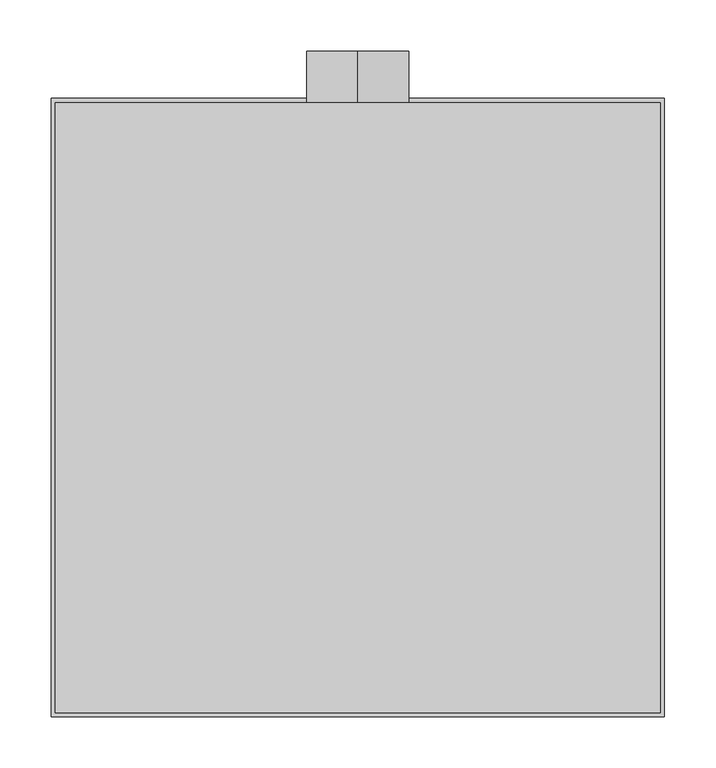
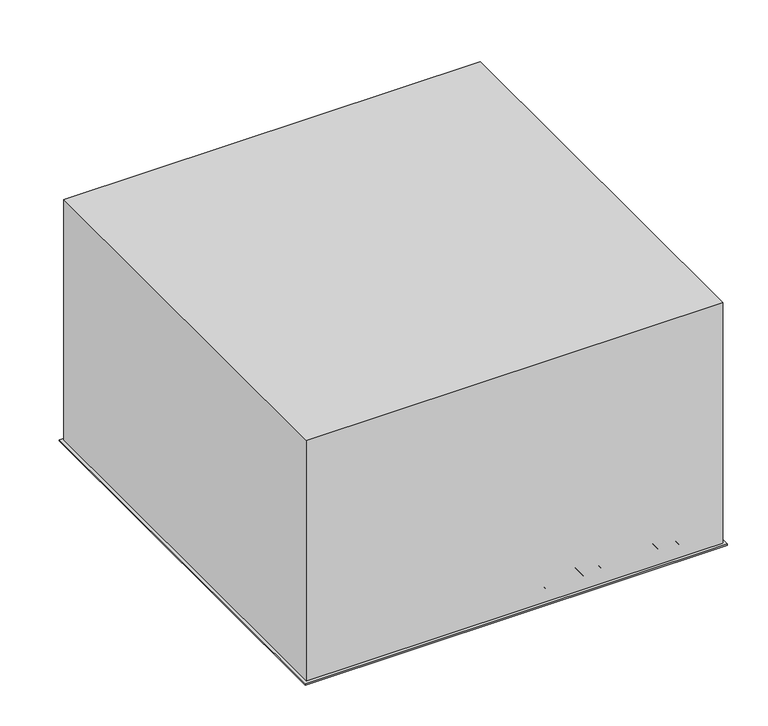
"""IFC4 building model written with IfcOpenShell, lengths in millimetres: air terminal geometry, EOL - plafonnier : EOL-P2-100-600x600."""

from ifc_helpers import new_model, si_unit, point, frame, frame_2d, origin, place, context, project, spatial, polyline, circle_curve, trimmed, segment, composite_curve, outline, extrude, source, transform, mapped, element, save
from ifc_brep_helpers import plane_surface, revolved_surface, advanced_brep


def air_terminal_18f7a0d8(model_context):
    return source(origin(), model_context, "Body", "SolidModel", [
        extrude(outline(composite_curve([segment(polyline([(1.0, 69.6874144), (2.0025269, 69.6874144)]), True, "CONTINUOUS"), segment(trimmed(circle_curve(frame_2d((31.0266548, 71.7874144)), 29.1), [point((2.0025269, 69.6874144))], [point((26.77286, 43.0))], True, "CARTESIAN"), True, "CONTINUOUS"), segment(polyline([(26.77286, 43.0), (35.0, 43.0), (35.0, 42.0), (26.7, 42.0)]), True, "CONTINUOUS"), segment(trimmed(circle_curve(frame_2d((31.0266548, 71.7874144)), 30.1), [point((26.7, 42.0))], [point((1.0, 69.6874144))], False, "CARTESIAN"), True, "CONTINUOUS")], self_intersect=False)), frame((0.0, 6.1874144, 0.0), z_axis=(0.0, 1.0, 0.0), x_axis=(0.0, 0.0, 1.0)), (0.0, 0.0, 1.0), 572.6251712),
        extrude(outline(composite_curve([segment(polyline([(1.0, 96.6874144), (2.0025269, 96.6874144)]), True, "CONTINUOUS"), segment(trimmed(circle_curve(frame_2d((31.0266548, 98.7874144)), 29.1), [point((2.0025269, 96.6874144))], [point((26.77286, 70.0))], True, "CARTESIAN"), True, "CONTINUOUS"), segment(polyline([(26.77286, 70.0), (35.0, 70.0), (35.0, 69.0), (26.7, 69.0)]), True, "CONTINUOUS"), segment(trimmed(circle_curve(frame_2d((31.0266548, 98.7874144)), 30.1), [point((26.7, 69.0))], [point((1.0, 96.6874144))], False, "CARTESIAN"), True, "CONTINUOUS")], self_intersect=False)), frame((0.0, 6.1874144, 0.0), z_axis=(0.0, 1.0, 0.0), x_axis=(0.0, 0.0, 1.0)), (0.0, 0.0, 1.0), 572.6251712),
        extrude(outline(composite_curve([segment(polyline([(1.0, 123.6874144), (2.0025269, 123.6874144)]), True, "CONTINUOUS"), segment(trimmed(circle_curve(frame_2d((31.0266548, 125.7874144)), 29.1), [point((2.0025269, 123.6874144))], [point((26.77286, 97.0))], True, "CARTESIAN"), True, "CONTINUOUS"), segment(polyline([(26.77286, 97.0), (35.0, 97.0), (35.0, 96.0), (26.7, 96.0)]), True, "CONTINUOUS"), segment(trimmed(circle_curve(frame_2d((31.0266548, 125.7874144)), 30.1), [point((26.7, 96.0))], [point((1.0, 123.6874144))], False, "CARTESIAN"), True, "CONTINUOUS")], self_intersect=False)), frame((0.0, 6.1874144, 0.0), z_axis=(0.0, 1.0, 0.0), x_axis=(0.0, 0.0, 1.0)), (0.0, 0.0, 1.0), 572.6251712),
        extrude(outline(composite_curve([segment(polyline([(1.0, 150.6874144), (2.0025269, 150.6874144)]), True, "CONTINUOUS"), segment(trimmed(circle_curve(frame_2d((31.0266548, 152.7874144)), 29.1), [point((2.0025269, 150.6874144))], [point((26.77286, 124.0))], True, "CARTESIAN"), True, "CONTINUOUS"), segment(polyline([(26.77286, 124.0), (35.0, 124.0), (35.0, 123.0), (26.7, 123.0)]), True, "CONTINUOUS"), segment(trimmed(circle_curve(frame_2d((31.0266548, 152.7874144)), 30.1), [point((26.7, 123.0))], [point((1.0, 150.6874144))], False, "CARTESIAN"), True, "CONTINUOUS")], self_intersect=False)), frame((0.0, 6.1874144, 0.0), z_axis=(0.0, 1.0, 0.0), x_axis=(0.0, 0.0, 1.0)), (0.0, 0.0, 1.0), 572.6251712),
        extrude(outline(composite_curve([segment(polyline([(1.0, 177.6874144), (2.0025269, 177.6874144)]), True, "CONTINUOUS"), segment(trimmed(circle_curve(frame_2d((31.0266548, 179.7874144)), 29.1), [point((2.0025269, 177.6874144))], [point((26.77286, 151.0))], True, "CARTESIAN"), True, "CONTINUOUS"), segment(polyline([(26.77286, 151.0), (35.0, 151.0), (35.0, 150.0), (26.7, 150.0)]), True, "CONTINUOUS"), segment(trimmed(circle_curve(frame_2d((31.0266548, 179.7874144)), 30.1), [point((26.7, 150.0))], [point((1.0, 177.6874144))], False, "CARTESIAN"), True, "CONTINUOUS")], self_intersect=False)), frame((0.0, 6.1874144, 0.0), z_axis=(0.0, 1.0, 0.0), x_axis=(0.0, 0.0, 1.0)), (0.0, 0.0, 1.0), 572.6251712),
        extrude(outline(composite_curve([segment(polyline([(1.0, 204.6874144), (2.0025269, 204.6874144)]), True, "CONTINUOUS"), segment(trimmed(circle_curve(frame_2d((31.0266548, 206.7874144)), 29.1), [point((2.0025269, 204.6874144))], [point((26.77286, 178.0))], True, "CARTESIAN"), True, "CONTINUOUS"), segment(polyline([(26.77286, 178.0), (35.0, 178.0), (35.0, 177.0), (26.7, 177.0)]), True, "CONTINUOUS"), segment(trimmed(circle_curve(frame_2d((31.0266548, 206.7874144)), 30.1), [point((26.7, 177.0))], [point((1.0, 204.6874144))], False, "CARTESIAN"), True, "CONTINUOUS")], self_intersect=False)), frame((0.0, 6.1874144, 0.0), z_axis=(0.0, 1.0, 0.0), x_axis=(0.0, 0.0, 1.0)), (0.0, 0.0, 1.0), 572.6251712),
        extrude(outline(composite_curve([segment(polyline([(1.0, 231.6874144), (2.0025269, 231.6874144)]), True, "CONTINUOUS"), segment(trimmed(circle_curve(frame_2d((31.0266548, 233.7874144)), 29.1), [point((2.0025269, 231.6874144))], [point((26.77286, 205.0))], True, "CARTESIAN"), True, "CONTINUOUS"), segment(polyline([(26.77286, 205.0), (35.0, 205.0), (35.0, 204.0), (26.7, 204.0)]), True, "CONTINUOUS"), segment(trimmed(circle_curve(frame_2d((31.0266548, 233.7874144)), 30.1), [point((26.7, 204.0))], [point((1.0, 231.6874144))], False, "CARTESIAN"), True, "CONTINUOUS")], self_intersect=False)), frame((0.0, 6.1874144, 0.0), z_axis=(0.0, 1.0, 0.0), x_axis=(0.0, 0.0, 1.0)), (0.0, 0.0, 1.0), 572.6251712),
        extrude(outline(composite_curve([segment(polyline([(1.0, 258.6874144), (2.0025269, 258.6874144)]), True, "CONTINUOUS"), segment(trimmed(circle_curve(frame_2d((31.0266548, 260.7874144)), 29.1), [point((2.0025269, 258.6874144))], [point((26.77286, 232.0))], True, "CARTESIAN"), True, "CONTINUOUS"), segment(polyline([(26.77286, 232.0), (35.0, 232.0), (35.0, 231.0), (26.7, 231.0)]), True, "CONTINUOUS"), segment(trimmed(circle_curve(frame_2d((31.0266548, 260.7874144)), 30.1), [point((26.7, 231.0))], [point((1.0, 258.6874144))], False, "CARTESIAN"), True, "CONTINUOUS")], self_intersect=False)), frame((0.0, 6.1874144, 0.0), z_axis=(0.0, 1.0, 0.0), x_axis=(0.0, 0.0, 1.0)), (0.0, 0.0, 1.0), 572.6251712),
        extrude(outline(composite_curve([segment(polyline([(1.0, 285.6874144), (2.0025269, 285.6874144)]), True, "CONTINUOUS"), segment(trimmed(circle_curve(frame_2d((31.0266548, 287.7874144)), 29.1), [point((2.0025269, 285.6874144))], [point((26.77286, 259.0))], True, "CARTESIAN"), True, "CONTINUOUS"), segment(polyline([(26.77286, 259.0), (35.0, 259.0), (35.0, 258.0), (26.7, 258.0)]), True, "CONTINUOUS"), segment(trimmed(circle_curve(frame_2d((31.0266548, 287.7874144)), 30.1), [point((26.7, 258.0))], [point((1.0, 285.6874144))], False, "CARTESIAN"), True, "CONTINUOUS")], self_intersect=False)), frame((0.0, 6.1874144, 0.0), z_axis=(0.0, 1.0, 0.0), x_axis=(0.0, 0.0, 1.0)), (0.0, 0.0, 1.0), 572.6251712),
        extrude(outline(composite_curve([segment(trimmed(circle_curve(frame_2d((31.0266548, -71.7874144)), 30.1), [point((1.0, -69.6874144))], [point((26.7, -42.0))], False, "CARTESIAN"), True, "CONTINUOUS"), segment(polyline([(26.7, -42.0), (35.0, -42.0), (35.0, -43.0), (26.77286, -43.0)]), True, "CONTINUOUS"), segment(trimmed(circle_curve(frame_2d((31.0266548, -71.7874144)), 29.1), [point((26.77286, -43.0))], [point((2.0025269, -69.6874144))], True, "CARTESIAN"), True, "CONTINUOUS"), segment(polyline([(2.0025269, -69.6874144), (1.0, -69.6874144)]), True, "CONTINUOUS")], self_intersect=False)), frame((0.0, 6.1874144, 0.0), z_axis=(0.0, 1.0, 0.0), x_axis=(0.0, 0.0, 1.0)), (0.0, 0.0, 1.0), 572.6251712),
        extrude(outline(composite_curve([segment(trimmed(circle_curve(frame_2d((31.0266548, -98.7874144)), 30.1), [point((1.0, -96.6874144))], [point((26.7, -69.0))], False, "CARTESIAN"), True, "CONTINUOUS"), segment(polyline([(26.7, -69.0), (35.0, -69.0), (35.0, -70.0), (26.77286, -70.0)]), True, "CONTINUOUS"), segment(trimmed(circle_curve(frame_2d((31.0266548, -98.7874144)), 29.1), [point((26.77286, -70.0))], [point((2.0025269, -96.6874144))], True, "CARTESIAN"), True, "CONTINUOUS"), segment(polyline([(2.0025269, -96.6874144), (1.0, -96.6874144)]), True, "CONTINUOUS")], self_intersect=False)), frame((0.0, 6.1874144, 0.0), z_axis=(0.0, 1.0, 0.0), x_axis=(0.0, 0.0, 1.0)), (0.0, 0.0, 1.0), 572.6251712),
        extrude(outline(composite_curve([segment(trimmed(circle_curve(frame_2d((31.0266548, -125.7874144)), 30.1), [point((1.0, -123.6874144))], [point((26.7, -96.0))], False, "CARTESIAN"), True, "CONTINUOUS"), segment(polyline([(26.7, -96.0), (35.0, -96.0), (35.0, -97.0), (26.77286, -97.0)]), True, "CONTINUOUS"), segment(trimmed(circle_curve(frame_2d((31.0266548, -125.7874144)), 29.1), [point((26.77286, -97.0))], [point((2.0025269, -123.6874144))], True, "CARTESIAN"), True, "CONTINUOUS"), segment(polyline([(2.0025269, -123.6874144), (1.0, -123.6874144)]), True, "CONTINUOUS")], self_intersect=False)), frame((0.0, 6.1874144, 0.0), z_axis=(0.0, 1.0, 0.0), x_axis=(0.0, 0.0, 1.0)), (0.0, 0.0, 1.0), 572.6251712),
        extrude(outline(composite_curve([segment(trimmed(circle_curve(frame_2d((31.0266548, -152.7874144)), 30.1), [point((1.0, -150.6874144))], [point((26.7, -123.0))], False, "CARTESIAN"), True, "CONTINUOUS"), segment(polyline([(26.7, -123.0), (35.0, -123.0), (35.0, -124.0), (26.77286, -124.0)]), True, "CONTINUOUS"), segment(trimmed(circle_curve(frame_2d((31.0266548, -152.7874144)), 29.1), [point((26.77286, -124.0))], [point((2.0025269, -150.6874144))], True, "CARTESIAN"), True, "CONTINUOUS"), segment(polyline([(2.0025269, -150.6874144), (1.0, -150.6874144)]), True, "CONTINUOUS")], self_intersect=False)), frame((0.0, 6.1874144, 0.0), z_axis=(0.0, 1.0, 0.0), x_axis=(0.0, 0.0, 1.0)), (0.0, 0.0, 1.0), 572.6251712),
        extrude(outline(composite_curve([segment(trimmed(circle_curve(frame_2d((31.0266548, -179.7874144)), 30.1), [point((1.0, -177.6874144))], [point((26.7, -150.0))], False, "CARTESIAN"), True, "CONTINUOUS"), segment(polyline([(26.7, -150.0), (35.0, -150.0), (35.0, -151.0), (26.77286, -151.0)]), True, "CONTINUOUS"), segment(trimmed(circle_curve(frame_2d((31.0266548, -179.7874144)), 29.1), [point((26.77286, -151.0))], [point((2.0025269, -177.6874144))], True, "CARTESIAN"), True, "CONTINUOUS"), segment(polyline([(2.0025269, -177.6874144), (1.0, -177.6874144)]), True, "CONTINUOUS")], self_intersect=False)), frame((0.0, 6.1874144, 0.0), z_axis=(0.0, 1.0, 0.0), x_axis=(0.0, 0.0, 1.0)), (0.0, 0.0, 1.0), 572.6251712),
        extrude(outline(composite_curve([segment(trimmed(circle_curve(frame_2d((31.0266548, -206.7874144)), 30.1), [point((1.0, -204.6874144))], [point((26.7, -177.0))], False, "CARTESIAN"), True, "CONTINUOUS"), segment(polyline([(26.7, -177.0), (35.0, -177.0), (35.0, -178.0), (26.77286, -178.0)]), True, "CONTINUOUS"), segment(trimmed(circle_curve(frame_2d((31.0266548, -206.7874144)), 29.1), [point((26.77286, -178.0))], [point((2.0025269, -204.6874144))], True, "CARTESIAN"), True, "CONTINUOUS"), segment(polyline([(2.0025269, -204.6874144), (1.0, -204.6874144)]), True, "CONTINUOUS")], self_intersect=False)), frame((0.0, 6.1874144, 0.0), z_axis=(0.0, 1.0, 0.0), x_axis=(0.0, 0.0, 1.0)), (0.0, 0.0, 1.0), 572.6251712),
        extrude(outline(composite_curve([segment(trimmed(circle_curve(frame_2d((31.0266548, -233.7874144)), 30.1), [point((1.0, -231.6874144))], [point((26.7, -204.0))], False, "CARTESIAN"), True, "CONTINUOUS"), segment(polyline([(26.7, -204.0), (35.0, -204.0), (35.0, -205.0), (26.77286, -205.0)]), True, "CONTINUOUS"), segment(trimmed(circle_curve(frame_2d((31.0266548, -233.7874144)), 29.1), [point((26.77286, -205.0))], [point((2.0025269, -231.6874144))], True, "CARTESIAN"), True, "CONTINUOUS"), segment(polyline([(2.0025269, -231.6874144), (1.0, -231.6874144)]), True, "CONTINUOUS")], self_intersect=False)), frame((0.0, 6.1874144, 0.0), z_axis=(0.0, 1.0, 0.0), x_axis=(0.0, 0.0, 1.0)), (0.0, 0.0, 1.0), 572.6251712),
        extrude(outline(composite_curve([segment(trimmed(circle_curve(frame_2d((31.0266548, -260.7874144)), 30.1), [point((1.0, -258.6874144))], [point((26.7, -231.0))], False, "CARTESIAN"), True, "CONTINUOUS"), segment(polyline([(26.7, -231.0), (35.0, -231.0), (35.0, -232.0), (26.77286, -232.0)]), True, "CONTINUOUS"), segment(trimmed(circle_curve(frame_2d((31.0266548, -260.7874144)), 29.1), [point((26.77286, -232.0))], [point((2.0025269, -258.6874144))], True, "CARTESIAN"), True, "CONTINUOUS"), segment(polyline([(2.0025269, -258.6874144), (1.0, -258.6874144)]), True, "CONTINUOUS")], self_intersect=False)), frame((0.0, 6.1874144, 0.0), z_axis=(0.0, 1.0, 0.0), x_axis=(0.0, 0.0, 1.0)), (0.0, 0.0, 1.0), 572.6251712),
        extrude(outline(polyline([(42.0, 578.8125856), (42.0, 6.1874144), (-42.0, 6.1874144), (-42.0, 578.8125856), (42.0, 578.8125856)])), frame((0.0, 0.0, 1.0), z_axis=(0.0, 0.0, 1.0), x_axis=(1.0, 0.0, 0.0)), (0.0, 0.0, 1.0), 1.0025269),
        extrude(outline(composite_curve([segment(trimmed(circle_curve(frame_2d((31.0266548, -287.7874144)), 30.1), [point((1.0, -285.6874144))], [point((26.7, -258.0))], False, "CARTESIAN"), True, "CONTINUOUS"), segment(polyline([(26.7, -258.0), (35.0, -258.0), (35.0, -259.0), (26.77286, -259.0)]), True, "CONTINUOUS"), segment(trimmed(circle_curve(frame_2d((31.0266548, -287.7874144)), 29.1), [point((26.77286, -259.0))], [point((2.0025269, -285.6874144))], True, "CARTESIAN"), True, "CONTINUOUS"), segment(polyline([(2.0025269, -285.6874144), (1.0, -285.6874144)]), True, "CONTINUOUS")], self_intersect=False)), frame((0.0, 6.1874144, 0.0), z_axis=(0.0, 1.0, 0.0), x_axis=(0.0, 0.0, 1.0)), (0.0, 0.0, 1.0), 572.6251712),
        extrude(outline(polyline([(299.0, 594.0), (299.0, -9.0), (-299.0, -9.0), (-299.0, 594.0), (299.0, 594.0)]), holes=[polyline([(290.0, 585.0), (-290.0, 585.0), (-290.0, 0.0), (290.0, 0.0), (290.0, 585.0)])]), frame((0.0, 0.0, -2.0), z_axis=(0.0, 0.0, 1.0), x_axis=(1.0, 0.0, 0.0)), (0.0, 0.0, 1.0), 2.0),
        extrude(outline(composite_curve([segment(trimmed(circle_curve(frame_2d((241.0, 0.0)), 50.0), [point((191.0, 0.0))], [point((291.0, 0.0))], False, "CARTESIAN"), True, "CONTINUOUS"), segment(trimmed(circle_curve(frame_2d((241.0, 0.0)), 50.0), [point((291.0, 0.0))], [point((191.0, 0.0))], False, "CARTESIAN"), True, "CONTINUOUS")], self_intersect=False), holes=[composite_curve([segment(trimmed(circle_curve(frame_2d((241.0, 0.0)), 49.0), [point((241.0, 49.0))], [point((241.0, -49.0))], True, "CARTESIAN"), True, "CONTINUOUS"), segment(trimmed(circle_curve(frame_2d((241.0, 0.0)), 49.0), [point((241.0, -49.0))], [point((241.0, 49.0))], True, "CARTESIAN"), True, "CONTINUOUS")], self_intersect=False)]), frame((0.0, 590.0, 0.0), z_axis=(0.0, 1.0, 0.0), x_axis=(0.0, 0.0, 1.0)), (0.0, 0.0, 1.0), 50.0),
        advanced_brep(
        [(295.0, 590.0, 361.0), (-295.0, 590.0, 361.0), (-295.0, -5.0, 361.0), (295.0, -5.0, 361.0), (295.0, 590.0, 0.0), (295.0, -5.0, 0.0), (-295.0, -5.0, 0.0), (-295.0, 590.0, 0.0), (290.0, 585.0, 0.0), (-290.0, 585.0, 0.0), (-290.0, 0.0, 0.0), (290.0, 0.0, 0.0), (-49.0, 590.0, 241.0), (49.0, 590.0, 241.0), (290.0, 585.0, 356.0), (290.0, 0.0, 356.0), (-290.0, 0.0, 356.0), (-290.0, 585.0, 356.0), (49.0, 585.0, 241.0), (-49.0, 585.0, 241.0)],
        [
            (0, 1),
            (1, 2),
            (2, 3),
            (3, 0),
            (4, 5),
            (5, 6),
            (6, 7),
            (7, 4),
            (8, 9),
            (9, 10),
            (10, 11),
            (11, 8),
            (0, 4),
            (7, 1),
            (12, 13, circle_curve(frame((0.0, 590.0, 241.0), z_axis=(0.0, -1.0, 0.0), x_axis=(1.0, 0.0, 0.0)), 49.0)),
            (13, 12, circle_curve(frame((0.0, 590.0, 241.0), z_axis=(0.0, -1.0, 0.0), x_axis=(1.0, 0.0, 0.0)), 49.0)),
            (6, 2),
            (5, 3),
            (14, 15),
            (15, 16),
            (16, 17),
            (17, 14),
            (17, 9),
            (8, 14),
            (18, 19, circle_curve(frame((0.0, 585.0, 241.0), z_axis=(0.0, 1.0, 0.0), x_axis=(1.0, 0.0, 0.0)), 49.0)),
            (19, 18, circle_curve(frame((0.0, 585.0, 241.0), z_axis=(0.0, 1.0, 0.0), x_axis=(1.0, 0.0, 0.0)), 49.0)),
            (16, 10),
            (15, 11),
            (12, 19),
            (18, 13),
        ],
        [
            plane_surface(frame((-295.0, 590.0, 361.0), z_axis=(0.0, 0.0, 1.0), x_axis=(-1.0, 0.0, 0.0))),
            plane_surface(frame((-295.0, 590.0, 0.0), z_axis=(0.0, 0.0, -1.0), x_axis=(1.0, 0.0, 0.0))),
            plane_surface(frame((295.0, 590.0, 361.0), z_axis=(0.0, 1.0, 0.0), x_axis=(0.0, 0.0, -1.0))),
            plane_surface(frame((-295.0, 590.0, 361.0), z_axis=(-1.0, 0.0, 0.0), x_axis=(0.0, 0.0, -1.0))),
            plane_surface(frame((-295.0, -5.0, 361.0), z_axis=(0.0, -1.0, 0.0), x_axis=(0.0, 0.0, -1.0))),
            plane_surface(frame((295.0, -5.0, 361.0), z_axis=(1.0, 0.0, 0.0), x_axis=(0.0, 0.0, -1.0))),
            plane_surface(frame((-290.0, 585.0, 356.0), z_axis=(0.0, 0.0, -1.0), x_axis=(-1.0, 0.0, 0.0))),
            plane_surface(frame((290.0, 585.0, 356.0), z_axis=(0.0, -1.0, 0.0), x_axis=(0.0, 0.0, -1.0))),
            plane_surface(frame((-290.0, 585.0, 356.0), z_axis=(1.0, 0.0, 0.0), x_axis=(0.0, 0.0, -1.0))),
            plane_surface(frame((-290.0, 0.0, 356.0), z_axis=(0.0, 1.0, 0.0), x_axis=(0.0, 0.0, -1.0))),
            plane_surface(frame((290.0, 0.0, 356.0), z_axis=(-1.0, 0.0, 0.0), x_axis=(0.0, 0.0, -1.0))),
            revolved_surface(polyline([(49.0, 585.0, 241.0), (49.0, 590.0, 241.0)]), (0.0, 640.0, 241.0), (0.0, -1.0, 0.0)),
        ],
        [
            (0, [[1, 2, 3, 4]]),
            (1, [[5, 6, 7, 8], [9, 10, 11, 12]]),
            (2, [[-1, 13, -8, 14], [15, 16]]),
            (3, [[-2, -14, -7, 17]]),
            (4, [[-3, -17, -6, 18]]),
            (5, [[-4, -18, -5, -13]]),
            (6, [[19, 20, 21, 22]]),
            (7, [[-22, 23, -9, 24], [25, 26]]),
            (8, [[-21, 27, -10, -23]]),
            (9, [[-20, 28, -11, -27]]),
            (10, [[-19, -24, -12, -28]]),
            (11, [[29, -25, 30, -15]]),
            (11, [[-29, -16, -30, -26]]),
        ],
    ),
    ])


if __name__ == "__main__":
    model = new_model("IFC4")
    model_context = context("Model", 3, world=origin())
    ifc_project = project(units=[si_unit("LENGTHUNIT", "METRE", prefix="MILLI")], contexts=[model_context])
    site = spatial("IfcSite", under=ifc_project)
    building = spatial("IfcBuilding", under=site)
    placement = place(None, origin())
    air_terminal_shape = air_terminal_18f7a0d8(model_context)
    element("IfcAirTerminal", 1, ObjectType="EOL - plafonnier : EOL-P2-100-600x600", at=placement, inside=building, context=model_context, shape_type="MappedRepresentation", body=[
        mapped(air_terminal_shape, transform((0.0, 0.0, 0.0), x_axis=(1.0, 0.0, 0.0), y_axis=(0.0, 1.0, 0.0), z_axis=(0.0, 0.0, 1.0))),
    ])
    save(model, "model.ifc")
